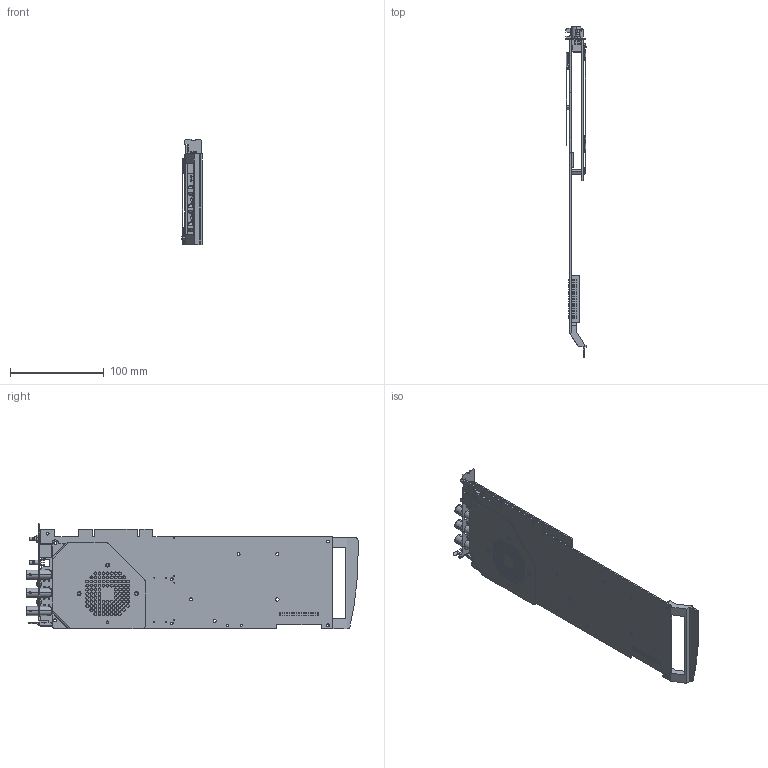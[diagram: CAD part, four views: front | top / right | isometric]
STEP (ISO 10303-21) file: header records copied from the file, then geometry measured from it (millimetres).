
FILE_DESCRIPTION((''),'2;1');
FILE_NAME('CU_PCI-5142_W_RETAINER','2009-12-14T',('jjorden'),(''),'PRO/ENGINEER BY PARAMETRIC TECHNOLOGY CORPORATION, 2006080','PRO/ENGINEER BY PARAMETRIC TECHNOLOGY CORPORATION, 2006080','');
FILE_SCHEMA(('CONFIG_CONTROL_DESIGN'));
Products named in the file (1): CU_PCI-5142_W_RETAINER
Bounding box: 22.24 x 354.53 x 113.03 mm (x, y, z)
Volume: 96145.4 mm3; surface area: 140492.2 mm2
Topology: 2 solids, 2 shells, 2040 faces, 5495 edges, 3533 vertices
Faces by surface type: plane 1161, cylinder 748, bspline 65, torus 40, cone 18, sphere 8
Entity records: 68851 total; most frequent: CARTESIAN_POINT 16105, ORIENTED_EDGE 10910, DIRECTION 10811, EDGE_CURVE 5455, AXIS2_PLACEMENT_3D 3613, VECTOR 3585, LINE 3585, VERTEX_POINT 3571
